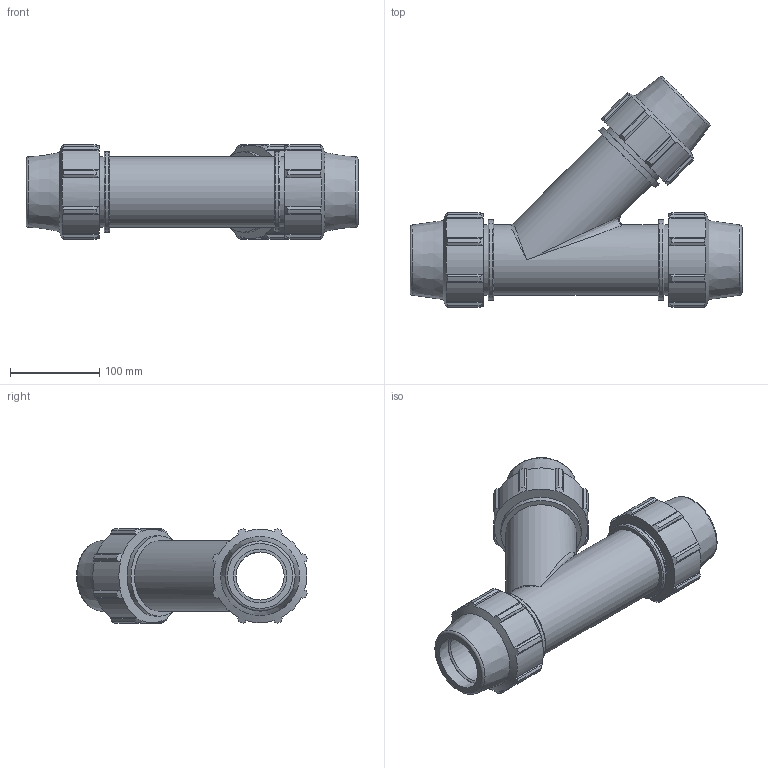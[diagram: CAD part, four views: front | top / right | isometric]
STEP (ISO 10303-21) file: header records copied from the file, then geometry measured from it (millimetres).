
FILE_DESCRIPTION(/* description */ ('PLASSON 45° TEE 2'''' - 2'''' - 2'''''),/* implementation_level */ '2;1');
FILE_NAME(/* name */ 'C:\Dropbox\KIMPROJECTS-Inventor 2019\99-16-3568-Processing Inch\ASTM Compression 2021\0764M0\0764M0020.ipt.stp',/* time_stamp */ '2021-08-26T12:34:55+03:00',/* author */ ('Кирилл'),/* organization */ (''),/* preprocessor_version */ 'ST-DEVELOPER v17.2',/* originating_system */ 'Autodesk Inventor 2019',/* authorisation */ '');
FILE_SCHEMA (('AUTOMOTIVE_DESIGN { 1 0 10303 214 3 1 1 }'));
Length unit declared in the file: inch
Products named in the file (1): 0764M0020
Bounding box: 372.87 x 259.22 x 106.35 mm (x, y, z)
Volume: 1906609.1 mm3; surface area: 294445.3 mm2
Topology: 1 solids, 1 shells, 219 faces, 645 edges, 440 vertices
Faces by surface type: plane 114, cylinder 61, cone 35, torus 7, bspline 2
Full cylindrical faces by diameter (mm): 54.09 x2, 60.1 x3, 79.121 x5, 90.424 x3
Entity records: 7726 total; most frequent: CARTESIAN_POINT 1643, ORIENTED_EDGE 1282, DIRECTION 1214, EDGE_CURVE 641, AXIS2_PLACEMENT_3D 451, VERTEX_POINT 440, LINE 312, VECTOR 312
